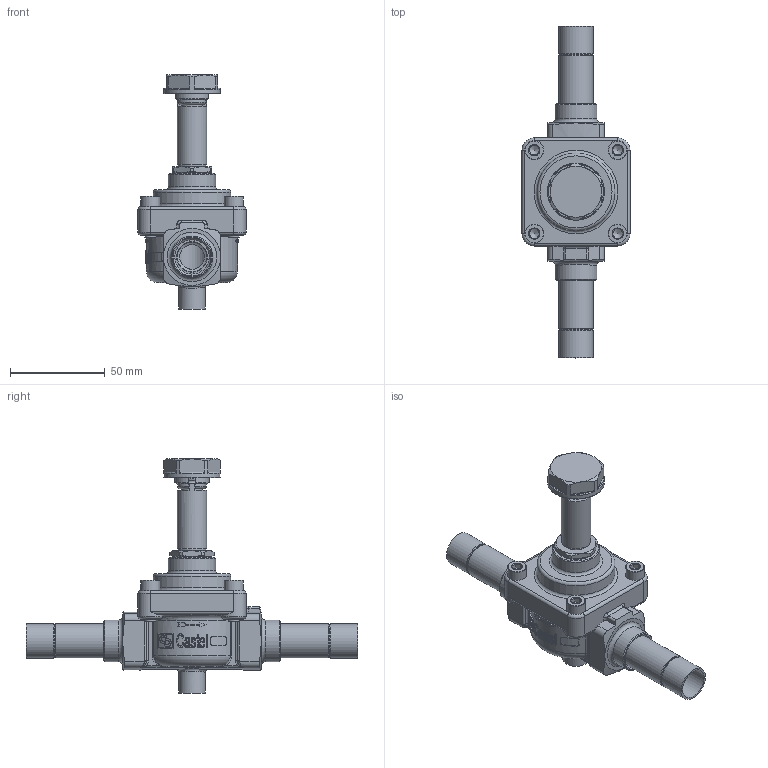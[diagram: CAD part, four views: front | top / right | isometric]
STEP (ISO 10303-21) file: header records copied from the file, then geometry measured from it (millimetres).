
FILE_DESCRIPTION(/* description */ (''),/* implementation_level */ '2;1');
FILE_NAME(/* name */ '1058_5S',/* time_stamp */ '2009-04-03T10:58:56+02:00',/* author */ (''),/* organization */ (''),/* preprocessor_version */ 'ST-DEVELOPER v9',/* originating_system */ 'UGS - NX 4.0',/* authorisation */ '');
FILE_SCHEMA (('AUTOMOTIVE_DESIGN { 1 0 10303 214 1 1 1 1 }'));
Length unit declared in the file: millimetre
Products named in the file (1): MMan27C9ij7o
Bounding box: 57 x 175 x 123.45 mm (x, y, z)
Volume: 110873.9 mm3; surface area: 56784.2 mm2
Topology: 5 solids, 11 shells, 711 faces, 1738 edges, 1101 vertices
Faces by surface type: plane 261, cylinder 184, cone 78, torus 69, extrusion 69, bspline 50
Full cylindrical faces by diameter (mm): 2.9 x1, 6 x10, 6.5 x4, 7.1 x1, 8 x2, 9.1 x1, 10 x4, 10.2 x2, 10.24 x1, 10.3 x1, 10.5 x1, 10.95 x2, 11.2 x1, 11.35 x1, 11.4 x1, 12.8 x1, 13 x2, 14 x1, 15 x1, 15.5 x3, 16 x2, 16.1 x2, 16.5 x2, 17.5 x2, 17.6 x1, 18 x2, 18.1 x2, 18.5 x1, 18.6 x1, 19.1 x1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
Entity records: 23927 total; most frequent: CARTESIAN_POINT 8735, ORIENTED_EDGE 3054, DIRECTION 2876, EDGE_CURVE 1527, AXIS2_PLACEMENT_3D 1162, VERTEX_POINT 1054, EDGE_LOOP 946, ADVANCED_FACE 711
